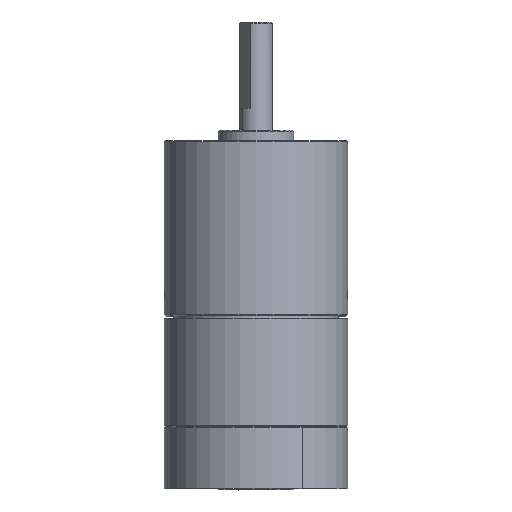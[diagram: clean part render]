
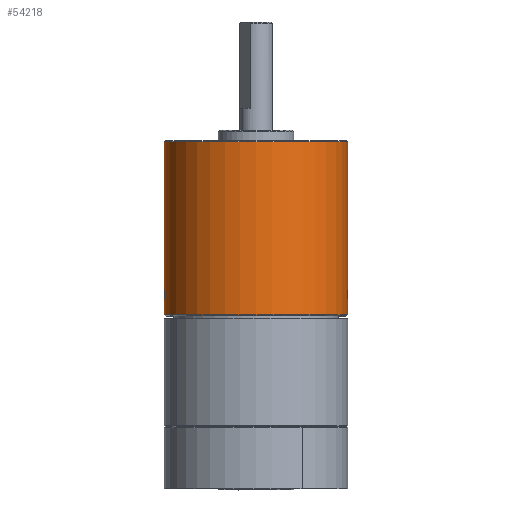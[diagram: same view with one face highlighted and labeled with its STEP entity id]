
A CAD part, top view. The second image highlights one B-rep face of the part: STEP entity #54218.
In plain terms, the highlighted cylindrical face has radius 8.5 mm (diameter 17 mm), a partial arc.
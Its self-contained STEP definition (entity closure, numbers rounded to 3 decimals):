
#198 = ORIENTED_EDGE ( 'NONE', *, *, #9595, .T. ) ;
#839 = CARTESIAN_POINT ( 'NONE',  ( -8.5, 1.2, 0.209 ) ) ;
#1064 = CARTESIAN_POINT ( 'NONE',  ( -8.5, 1.2, 0. ) ) ;
#1266 = CARTESIAN_POINT ( 'NONE',  ( -8.471, 1.597, 0.699 ) ) ;
#1346 = ORIENTED_EDGE ( 'NONE', *, *, #13742, .F. ) ;
#3671 = CIRCLE ( 'NONE', #35185, 8.5 ) ;
#4502 = CARTESIAN_POINT ( 'NONE',  ( 8.462, 1.791, 0.8 ) ) ;
#4729 = DIRECTION ( 'NONE',  ( 0., 1., 0. ) ) ;
#5066 = CARTESIAN_POINT ( 'NONE',  ( 8.498, 2.779, 0.209 ) ) ;
#5338 = CARTESIAN_POINT ( 'NONE',  ( 8.5, 0., 0. ) ) ;
#6087 = EDGE_CURVE ( 'NONE', #40024, #6453, #17526, .T. ) ;
#6270 = CARTESIAN_POINT ( 'NONE',  ( -8.462, 1.894, 0.8 ) ) ;
#6453 = VERTEX_POINT ( 'NONE', #54031 ) ;
#6622 = EDGE_CURVE ( 'NONE', #47454, #14578, #7323, .T. ) ;
#7261 = CARTESIAN_POINT ( 'NONE',  ( 8.5, 0., 0. ) ) ;
#7323 = LINE ( 'NONE', #55573, #47455 ) ;
#9009 = DIRECTION ( 'NONE',  ( 0., -1., 0. ) ) ;
#9555 = CARTESIAN_POINT ( 'NONE',  ( 8.486, 1.361, 0.492 ) ) ;
#9595 = EDGE_CURVE ( 'NONE', #14578, #13934, #23797, .T. ) ;
#10117 = CARTESIAN_POINT ( 'NONE',  ( 8.5, 2.8, 0. ) ) ;
#10387 = DIRECTION ( 'NONE',  ( 0., -1., 0. ) ) ;
#10981 = CARTESIAN_POINT ( 'NONE',  ( -8.464, 2.209, 0.779 ) ) ;
#12037 = ORIENTED_EDGE ( 'NONE', *, *, #58701, .F. ) ;
#13742 = EDGE_CURVE ( 'NONE', #43074, #13934, #35980, .T. ) ;
#13934 = VERTEX_POINT ( 'NONE', #19555 ) ;
#14578 = VERTEX_POINT ( 'NONE', #34622 ) ;
#14622 = CARTESIAN_POINT ( 'NONE',  ( 8.498, 1.221, 0.21 ) ) ;
#15192 = CARTESIAN_POINT ( 'NONE',  ( 8.486, 2.64, 0.491 ) ) ;
#15425 = VECTOR ( 'NONE', #10387, 1000. ) ;
#16050 = CARTESIAN_POINT ( 'NONE',  ( -8.476, 2.492, 0.64 ) ) ;
#16493 = DIRECTION ( 'NONE',  ( -1., 0., 0. ) ) ;
#16895 = FACE_OUTER_BOUND ( 'NONE', #23388, .T. ) ;
#17377 = DIRECTION ( 'NONE',  ( 0., -1., 0. ) ) ;
#17445 = ORIENTED_EDGE ( 'NONE', *, *, #6087, .F. ) ;
#17520 = VERTEX_POINT ( 'NONE', #26476 ) ;
#17526 = B_SPLINE_CURVE_WITH_KNOTS ( 'NONE', 3,
 ( #10117, #20051, #5066, #45296, #15192, #50362, #20268, #55405, #25326, #60504 ),
 .UNSPECIFIED., .F., .F.,
 ( 4, 2, 2, 2, 4 ),
 ( 0.001, 0.002, 0.002, 0.002, 0.003 ),
 .UNSPECIFIED. ) ;
#18025 = EDGE_CURVE ( 'NONE', #18403, #17520, #27205, .T. ) ;
#18068 = ORIENTED_EDGE ( 'NONE', *, *, #41130, .T. ) ;
#18403 = VERTEX_POINT ( 'NONE', #58866 ) ;
#18930 = CARTESIAN_POINT ( 'NONE',  ( -8.5, 0., 0. ) ) ;
#19555 = CARTESIAN_POINT ( 'NONE',  ( 8.5, 0.1, 0. ) ) ;
#19705 = CARTESIAN_POINT ( 'NONE',  ( 8.5, 1.2, 0. ) ) ;
#20051 = CARTESIAN_POINT ( 'NONE',  ( 8.5, 2.8, 0.104 ) ) ;
#20268 = CARTESIAN_POINT ( 'NONE',  ( 8.471, 2.403, 0.699 ) ) ;
#20321 = ORIENTED_EDGE ( 'NONE', *, *, #22926, .F. ) ;
#20919 = CARTESIAN_POINT ( 'NONE',  ( -8.462, 2., 0.8 ) ) ;
#21122 = CARTESIAN_POINT ( 'NONE',  ( -8.5, 2.8, 0.211 ) ) ;
#21773 = DIRECTION ( 'NONE',  ( 0., -1., 0. ) ) ;
#22926 = EDGE_CURVE ( 'NONE', #47454, #18403, #46563, .T. ) ;
#23388 = EDGE_LOOP ( 'NONE', ( #27948, #18068, #42346, #59287, #20321, #31932, #198, #1346, #12037, #17445 ) ) ;
#23797 = CIRCLE ( 'NONE', #41445, 8.5 ) ;
#25326 = CARTESIAN_POINT ( 'NONE',  ( 8.462, 2.104, 0.8 ) ) ;
#25513 = DIRECTION ( 'NONE',  ( 0., -1., 0. ) ) ;
#25702 = VERTEX_POINT ( 'NONE', #41738 ) ;
#26476 = CARTESIAN_POINT ( 'NONE',  ( -8.5, 2.8, 0. ) ) ;
#26837 = CARTESIAN_POINT ( 'NONE',  ( 0., 0., 0. ) ) ;
#27205 = B_SPLINE_CURVE_WITH_KNOTS ( 'NONE', 3,
 ( #20919, #61132, #10981, #46167, #16050, #51227, #21122, #56273 ),
 .UNSPECIFIED., .F., .F.,
 ( 4, 2, 2, 4 ),
 ( 0.004, 0.004, 0.004, 0.005 ),
 .UNSPECIFIED. ) ;
#27553 = DIRECTION ( 'NONE',  ( 0., -1., 0. ) ) ;
#27948 = ORIENTED_EDGE ( 'NONE', *, *, #64824, .F. ) ;
#29677 = CARTESIAN_POINT ( 'NONE',  ( -8.5, 1.2, 0. ) ) ;
#31337 = CARTESIAN_POINT ( 'NONE',  ( -8.476, 1.508, 0.639 ) ) ;
#31932 = ORIENTED_EDGE ( 'NONE', *, *, #6622, .T. ) ;
#34622 = CARTESIAN_POINT ( 'NONE',  ( -8.5, 0.1, 0. ) ) ;
#34627 = CARTESIAN_POINT ( 'NONE',  ( 8.462, 2., 0.8 ) ) ;
#34863 = CARTESIAN_POINT ( 'NONE',  ( 0., 0.1, 0. ) ) ;
#35185 = AXIS2_PLACEMENT_3D ( 'NONE', #57683, #27553, #62748 ) ;
#35980 = LINE ( 'NONE', #7261, #37562 ) ;
#36368 = CARTESIAN_POINT ( 'NONE',  ( -8.464, 1.79, 0.779 ) ) ;
#37562 = VECTOR ( 'NONE', #17377, 1000. ) ;
#39673 = CARTESIAN_POINT ( 'NONE',  ( 8.471, 1.582, 0.713 ) ) ;
#39885 = DIRECTION ( 'NONE',  ( -1., 0., 0. ) ) ;
#40024 = VERTEX_POINT ( 'NONE', #61822 ) ;
#40812 = VECTOR ( 'NONE', #9009, 1000. ) ;
#41130 = EDGE_CURVE ( 'NONE', #25702, #52291, #3671, .T. ) ;
#41428 = CARTESIAN_POINT ( 'NONE',  ( -8.462, 2., 0.8 ) ) ;
#41445 = AXIS2_PLACEMENT_3D ( 'NONE', #34863, #4729, #39885 ) ;
#41738 = CARTESIAN_POINT ( 'NONE',  ( 8.5, 16.1, 0. ) ) ;
#42149 = LINE ( 'NONE', #5338, #15425 ) ;
#42346 = ORIENTED_EDGE ( 'NONE', *, *, #63197, .T. ) ;
#43074 = VERTEX_POINT ( 'NONE', #59650 ) ;
#44720 = CARTESIAN_POINT ( 'NONE',  ( 8.491, 1.301, 0.403 ) ) ;
#45296 = CARTESIAN_POINT ( 'NONE',  ( 8.491, 2.699, 0.403 ) ) ;
#46167 = CARTESIAN_POINT ( 'NONE',  ( -8.471, 2.403, 0.699 ) ) ;
#46563 = B_SPLINE_CURVE_WITH_KNOTS ( 'NONE', 3,
 ( #1064, #839, #61476, #31337, #1266, #36368, #6270, #41428 ),
 .UNSPECIFIED., .F., .F.,
 ( 4, 2, 2, 4 ),
 ( 0.003, 0.003, 0.003, 0.004 ),
 .UNSPECIFIED. ) ;
#47454 = VERTEX_POINT ( 'NONE', #29677 ) ;
#47455 = VECTOR ( 'NONE', #25513, 1000. ) ;
#47873 = B_SPLINE_CURVE_WITH_KNOTS ( 'NONE', 3,
 ( #34627, #4502, #39673, #9555, #44720, #14622, #49807, #19705 ),
 .UNSPECIFIED., .F., .F.,
 ( 4, 2, 2, 4 ),
 ( 0.003, 0.003, 0.003, 0.004 ),
 .UNSPECIFIED. ) ;
#49807 = CARTESIAN_POINT ( 'NONE',  ( 8.5, 1.2, 0.106 ) ) ;
#50362 = CARTESIAN_POINT ( 'NONE',  ( 8.476, 2.491, 0.64 ) ) ;
#51227 = CARTESIAN_POINT ( 'NONE',  ( -8.491, 2.713, 0.418 ) ) ;
#52291 = VERTEX_POINT ( 'NONE', #61920 ) ;
#54031 = CARTESIAN_POINT ( 'NONE',  ( 8.462, 2., 0.8 ) ) ;
#54165 = LINE ( 'NONE', #18930, #40812 ) ;
#54218 = ADVANCED_FACE ( 'NONE', ( #16895 ), #55413, .T. ) ;
#55405 = CARTESIAN_POINT ( 'NONE',  ( 8.464, 2.209, 0.779 ) ) ;
#55413 = CYLINDRICAL_SURFACE ( 'NONE', #61263, 8.5 ) ;
#55573 = CARTESIAN_POINT ( 'NONE',  ( -8.5, 0., 0. ) ) ;
#56273 = CARTESIAN_POINT ( 'NONE',  ( -8.5, 2.8, 0. ) ) ;
#57683 = CARTESIAN_POINT ( 'NONE',  ( 0., 16.1, 0. ) ) ;
#58701 = EDGE_CURVE ( 'NONE', #6453, #43074, #47873, .T. ) ;
#58866 = CARTESIAN_POINT ( 'NONE',  ( -8.462, 2., 0.8 ) ) ;
#59287 = ORIENTED_EDGE ( 'NONE', *, *, #18025, .F. ) ;
#59650 = CARTESIAN_POINT ( 'NONE',  ( 8.5, 1.2, 0. ) ) ;
#60504 = CARTESIAN_POINT ( 'NONE',  ( 8.462, 2., 0.8 ) ) ;
#61132 = CARTESIAN_POINT ( 'NONE',  ( -8.462, 2.106, 0.8 ) ) ;
#61263 = AXIS2_PLACEMENT_3D ( 'NONE', #26837, #21773, #16493 ) ;
#61476 = CARTESIAN_POINT ( 'NONE',  ( -8.491, 1.287, 0.418 ) ) ;
#61822 = CARTESIAN_POINT ( 'NONE',  ( 8.5, 2.8, 0. ) ) ;
#61920 = CARTESIAN_POINT ( 'NONE',  ( -8.5, 16.1, 0. ) ) ;
#62748 = DIRECTION ( 'NONE',  ( 1., 0., 0. ) ) ;
#63197 = EDGE_CURVE ( 'NONE', #52291, #17520, #54165, .T. ) ;
#64824 = EDGE_CURVE ( 'NONE', #25702, #40024, #42149, .T. ) ;
